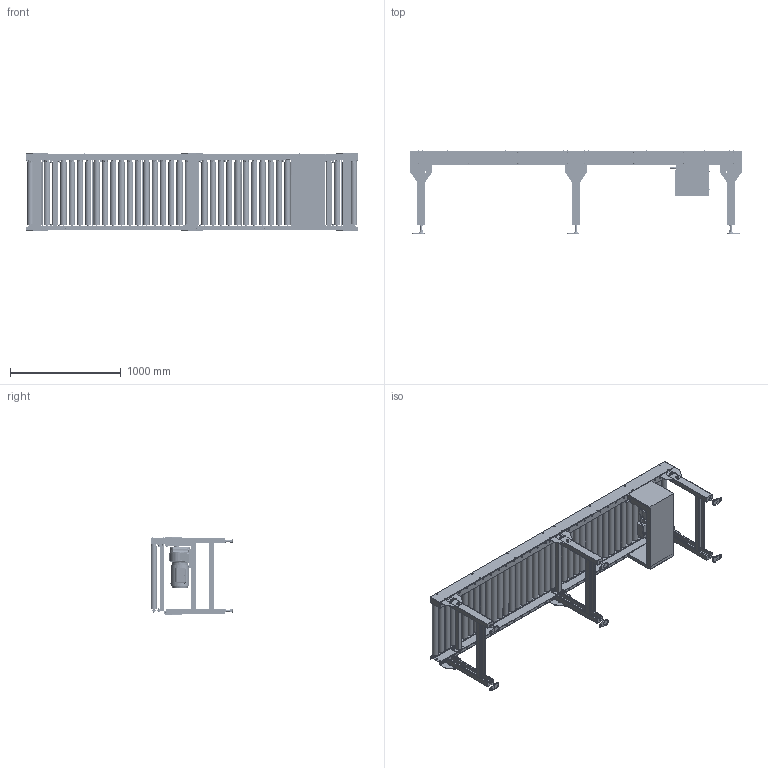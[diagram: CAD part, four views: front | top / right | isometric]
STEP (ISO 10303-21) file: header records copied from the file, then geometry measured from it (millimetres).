
FILE_DESCRIPTION( (''), '2;1');
FILE_NAME ('WEB-MCC4H-57-3-075-630-75-300-L-10S.stp','2025-06-18T08:55:31',(''),(''),'spGate 20.6.2 (****-****-****-****)','','');
FILE_SCHEMA (('AUTOMOTIVE_DESIGN'));
Length unit declared in the file: millimetre
Products named in the file (27): WEB-MCC4H-57-3-075-630-75-300-L-10S; TEMP_X_T-prt0; TEMP_X_T-prt1; TEMP_X_T-prt2; TEMP_X_T-prt3; TEMP_X_T-prt4; TEMP_X_T-prt5; TEMP_X_T-prt6; TEMP_X_T-prt7; TEMP_X_T-prt8; TEMP_X_T-prt9; TEMP_X_T-prt10; TEMP_X_T-prt11; TEMP_X_T-prt12; TEMP_X_T-prt13; TEMP_X_T-prt14; TEMP_X_T-prt15; TEMP_X_T-prt16; TEMP_X_T-prt17; TEMP_X_T-prt18; TEMP_X_T-prt19; TEMP_X_T-prt20; TEMP_X_T-prt21; TEMP_X_T-prt22; TEMP_X_T-prt23; TEMP_X_T-prt24; TEMP_X_T-prt25
Assembly tree (26 placements, depth 2):
  WEB-MCC4H-57-3-075-630-75-300-L-10S
    TEMP_X_T-prt0
    TEMP_X_T-prt1
    TEMP_X_T-prt2
    TEMP_X_T-prt3
    TEMP_X_T-prt4
    TEMP_X_T-prt5
    TEMP_X_T-prt6
    TEMP_X_T-prt7
    TEMP_X_T-prt8
    TEMP_X_T-prt9
    TEMP_X_T-prt10
    TEMP_X_T-prt11
    TEMP_X_T-prt12
    TEMP_X_T-prt13
    TEMP_X_T-prt14
    TEMP_X_T-prt15
    TEMP_X_T-prt16
    TEMP_X_T-prt17
    TEMP_X_T-prt18
    TEMP_X_T-prt19
    TEMP_X_T-prt20
    TEMP_X_T-prt21
    TEMP_X_T-prt22
    TEMP_X_T-prt23
    TEMP_X_T-prt24
    TEMP_X_T-prt25
Bounding box: 3002.4 x 750.3 x 714.4 mm (x, y, z)
Volume: 114933613 mm3; surface area: 10581593.5 mm2
Topology: 26 solids, 26 shells, 3938 faces, 9779 edges, 6602 vertices
Faces by surface type: plane 2950, cylinder 918, bspline 45, sphere 25
Full cylindrical faces by diameter (mm): 6 x64, 6.94 x3, 7 x1, 8 x43, 8.5 x5, 9.2 x4, 10 x105, 10.5 x8, 11 x30, 11.8 x24, 12 x8, 13 x44, 15 x4, 15.4 x44, 15.5 x40, 16 x24, 18 x35, 18.4 x22, 21 x4, 22 x13, 24 x52, 24.5 x4, 25 x4, 27 x1, 30 x1, 37 x40, 38 x1, 45 x1, 47 x40, 57 x40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
Entity records: 199428 total; most frequent: CARTESIAN_POINT 23174, DIRECTION 20030, ORIENTED_EDGE 19510, COLOUR_RGB 13719, PRESENTATION_STYLE_ASSIGNMENT 13719, STYLED_ITEM 13719, EDGE_CURVE 9755, DRAUGHTING_PRE_DEFINED_CURVE_FONT 9755
